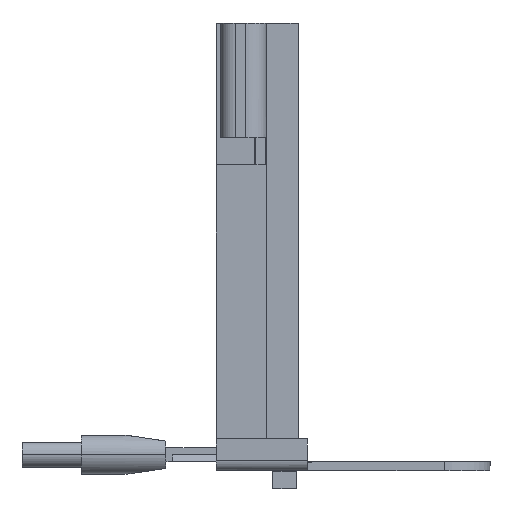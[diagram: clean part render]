
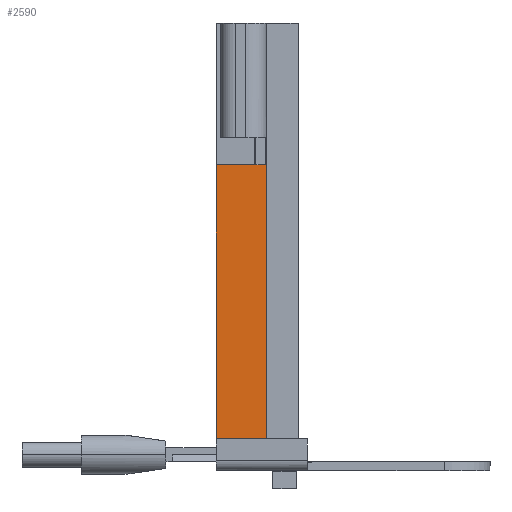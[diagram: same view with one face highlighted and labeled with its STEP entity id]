
A CAD part, left-side view. The second image highlights one B-rep face of the part: STEP entity #2590.
In plain terms, the highlighted planar face has unit normal (-1, 0, 0).
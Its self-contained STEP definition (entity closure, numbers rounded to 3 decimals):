
#393 = VERTEX_POINT ( 'NONE', #4612 ) ;
#395 = VERTEX_POINT ( 'NONE', #4617 ) ;
#399 = VERTEX_POINT ( 'NONE', #4620 ) ;
#401 = VERTEX_POINT ( 'NONE', #4698 ) ;
#1143 = EDGE_CURVE ( 'NONE', #393, #401, #1939, .T. ) ;
#1351 = EDGE_CURVE ( 'NONE', #393, #399, #2114, .T. ) ;
#1576 = EDGE_CURVE ( 'NONE', #399, #395, #2282, .T. ) ;
#1939 = LINE ( 'NONE', #8341, #1940 ) ;
#1940 = VECTOR ( 'NONE', #8344, 1000. ) ;
#2114 = LINE ( 'NONE', #8024, #2117 ) ;
#2117 = VECTOR ( 'NONE', #8031, 1000. ) ;
#2282 = LINE ( 'NONE', #7199, #2288 ) ;
#2288 = VECTOR ( 'NONE', #7202, 1000. ) ;
#2590 = ADVANCED_FACE ( 'NONE', ( #3750 ), #7492, .F. ) ;
#2985 = EDGE_LOOP ( 'NONE', ( #5357, #5367, #5365, #5366 ) ) ;
#3750 = FACE_OUTER_BOUND ( 'NONE', #2985, .T. ) ;
#4224 = LINE ( 'NONE', #6878, #4230 ) ;
#4230 = VECTOR ( 'NONE', #6879, 1000. ) ;
#4612 = CARTESIAN_POINT ( 'NONE',  ( -88., 15., 67. ) ) ;
#4617 = CARTESIAN_POINT ( 'NONE',  ( -88., 4., 2. ) ) ;
#4620 = CARTESIAN_POINT ( 'NONE',  ( -88., 4., 67. ) ) ;
#4698 = CARTESIAN_POINT ( 'NONE',  ( -88., 15., 2. ) ) ;
#4808 = AXIS2_PLACEMENT_3D ( 'NONE', #7378, #7423, #7433 ) ;
#5357 = ORIENTED_EDGE ( 'NONE', *, *, #1351, .F. ) ;
#5365 = ORIENTED_EDGE ( 'NONE', *, *, #6055, .T. ) ;
#5366 = ORIENTED_EDGE ( 'NONE', *, *, #1576, .F. ) ;
#5367 = ORIENTED_EDGE ( 'NONE', *, *, #1143, .T. ) ;
#6055 = EDGE_CURVE ( 'NONE', #401, #395, #4224, .T. ) ;
#6878 = CARTESIAN_POINT ( 'NONE',  ( -88., 4., 2. ) ) ;
#6879 = DIRECTION ( 'NONE',  ( 0., -1., 0. ) ) ;
#7199 = CARTESIAN_POINT ( 'NONE',  ( -88., 4., 85. ) ) ;
#7202 = DIRECTION ( 'NONE',  ( 0., 0., -1. ) ) ;
#7378 = CARTESIAN_POINT ( 'NONE',  ( -88., 4., 85. ) ) ;
#7423 = DIRECTION ( 'NONE',  ( 1., 0., 0. ) ) ;
#7433 = DIRECTION ( 'NONE',  ( 0., 1., 0. ) ) ;
#7492 = PLANE ( 'NONE',  #4808 ) ;
#8024 = CARTESIAN_POINT ( 'NONE',  ( -88., 15., 67. ) ) ;
#8031 = DIRECTION ( 'NONE',  ( 0., -1., 0. ) ) ;
#8341 = CARTESIAN_POINT ( 'NONE',  ( -88., 15., 85. ) ) ;
#8344 = DIRECTION ( 'NONE',  ( 0., 0., -1. ) ) ;
